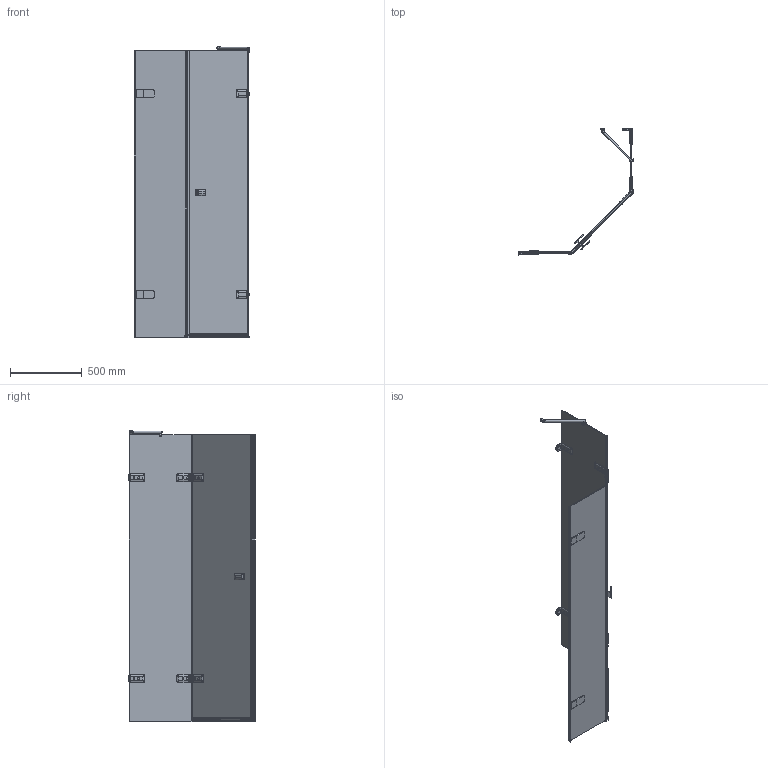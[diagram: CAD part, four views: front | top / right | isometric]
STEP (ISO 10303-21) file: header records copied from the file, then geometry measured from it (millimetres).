
FILE_DESCRIPTION(/* description */ (''),/* implementation_level */ '2;1');
FILE_NAME(/* name */ 'E:\Работа\Сергей\Душевые кабинки\! Работа\TREND FESTT GK-863ONE-2522P\TREND FESTT GK-863ONE-2522P правая модель\TREND FESTT GK-863ONE-2522P ПРАВАЯ-3D.stp',/* time_stamp */ '2018-05-30T19:11:31+03:00',/* author */ ('PC'),/* organization */ (''),/* preprocessor_version */ 'ST-DEVELOPER v15.2',/* originating_system */ 'Autodesk Inventor 2014',/* authorisation */ '');
FILE_SCHEMA (('AUTOMOTIVE_DESIGN { 1 0 10303 214 3 1 1 }'));
Products named in the file (1): TREND FESTT GK-863ONE-2522P \X2\041F0420041004120410042F
\X0\-3D
Bounding box: 804.62 x 879.86 x 2031.49 mm (x, y, z)
Volume: 17989998.2 mm3; surface area: 6118675 mm2
Topology: 9 solids, 9 shells, 1519 faces, 3930 edges, 2425 vertices
Faces by surface type: plane 904, cylinder 368, bspline 160, torus 45, cone 22, sphere 20
Full cylindrical faces by diameter (mm): 6 x4, 9 x8, 12 x1, 13 x4, 15 x1, 20 x2, 26 x1, 40 x2
Entity records: 64176 total; most frequent: CARTESIAN_POINT 26660, ORIENTED_EDGE 7612, DIRECTION 7227, EDGE_CURVE 3805, AXIS2_PLACEMENT_3D 2420, VERTEX_POINT 2403, LINE 2387, VECTOR 2387
